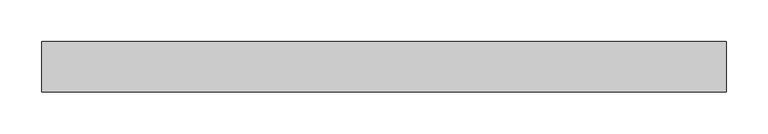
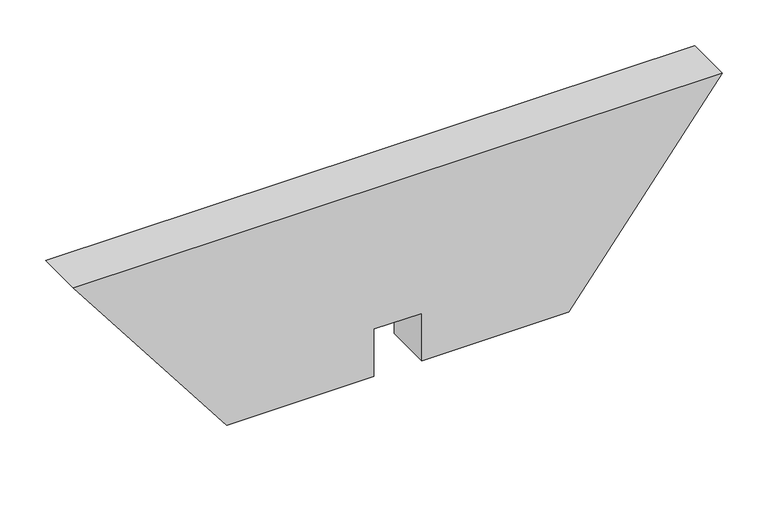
"""IFC4 building model written with IfcOpenShell, lengths in millimetres: proxy geometry, Modelos genéricos 104 : Modelos genéricos 3."""

from ifc_helpers import new_model, si_unit, frame, origin, place, context, project, spatial, polyline, outline, extrude, source, transform, mapped, element, save


def generic_models_4b42bfc0(model_context):
    return source(origin(), model_context, "Body", "SweptSolid", [
        extrude(outline(polyline([(3347.4183406, 44761.5188113), (3347.4183406, 43945.3756822), (3096.9471217, 44138.4472467), (3096.9471217, 44323.4472467), (3160.0, 44323.4472467), (3160.0, 44383.4472467), (3096.9471217, 44383.4472467), (3096.9471217, 44568.4472467), (3347.4183406, 44761.5188113)])), frame((0.0, -2241.3761835, 0.0), z_axis=(0.0, 1.0, 0.0), x_axis=(0.0, 0.0, 1.0)), (0.0, 0.0, 1.0), 60.0),
    ])


if __name__ == "__main__":
    model = new_model("IFC4")
    model_context = context("Model", 3, world=origin())
    ifc_project = project(units=[si_unit("LENGTHUNIT", "METRE", prefix="MILLI")], contexts=[model_context])
    site = spatial("IfcSite", under=ifc_project)
    building = spatial("IfcBuilding", under=site)
    placement = place(None, origin())
    generic_models_shape = generic_models_4b42bfc0(model_context)
    element("IfcBuildingElementProxy", 1, Name="Modelos genéricos 104 : Modelos genéricos 3", ObjectType="Modelos genéricos 104 : Modelos genéricos 3", at=placement, inside=building, context=model_context, shape_type="MappedRepresentation", body=[
        mapped(generic_models_shape, transform((0.0, 0.0, 0.0), x_axis=(1.0, 0.0, 0.0), y_axis=(0.0, 1.0, 0.0), z_axis=(0.0, 0.0, 1.0))),
    ])
    save(model, "model.ifc")
